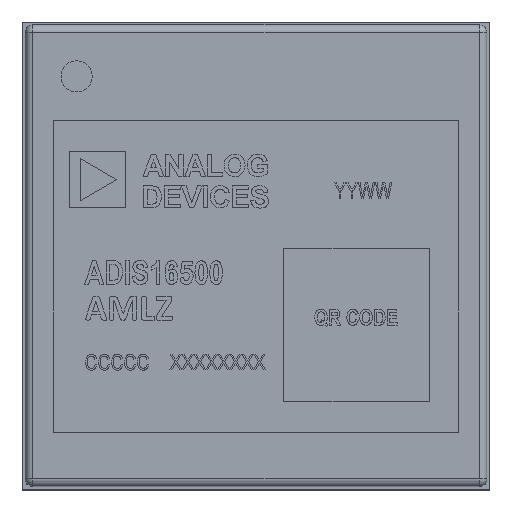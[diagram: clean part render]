
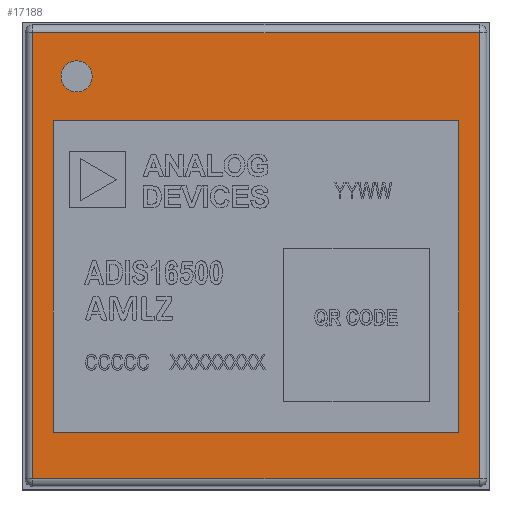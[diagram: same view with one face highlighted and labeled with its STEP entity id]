
A CAD part, top view. The second image highlights one B-rep face of the part: STEP entity #17188.
In plain terms, the highlighted planar face has unit normal (0, 0, 1).
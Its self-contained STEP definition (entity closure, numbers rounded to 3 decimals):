
#1036 = VECTOR ( 'NONE', #28951, 1000. ) ;
#1573 = AXIS2_PLACEMENT_3D ( 'NONE', #33258, #9919, #37222 ) ;
#2166 = DIRECTION ( 'NONE',  ( 0., 0., 1. ) ) ;
#3659 = CARTESIAN_POINT ( 'NONE',  ( -9.238, 0., 35.526 ) ) ;
#3834 = VERTEX_POINT ( 'NONE', #47208 ) ;
#5581 = CARTESIAN_POINT ( 'NONE',  ( 0., -12.652, 35.526 ) ) ;
#7811 = LINE ( 'NONE', #3659, #28560 ) ;
#8319 = LINE ( 'NONE', #16685, #29044 ) ;
#9919 = DIRECTION ( 'NONE',  ( 0., 0., 1. ) ) ;
#10048 = ORIENTED_EDGE ( 'NONE', *, *, #37136, .F. ) ;
#10341 = ORIENTED_EDGE ( 'NONE', *, *, #27175, .T. ) ;
#11752 = CARTESIAN_POINT ( 'NONE',  ( 5.062, -12.652, 35.526 ) ) ;
#12433 = AXIS2_PLACEMENT_3D ( 'NONE', #26126, #37958, #14497 ) ;
#14497 = DIRECTION ( 'NONE',  ( -1., 0., 0. ) ) ;
#16137 = EDGE_CURVE ( 'NONE', #3834, #25210, #23733, .T. ) ;
#16685 = CARTESIAN_POINT ( 'NONE',  ( 0., 1.648, 35.526 ) ) ;
#17115 = ORIENTED_EDGE ( 'NONE', *, *, #18188, .T. ) ;
#17188 = ADVANCED_FACE ( 'NONE', ( #48048, #27195 ), #33983, .F. ) ;
#17339 = ORIENTED_EDGE ( 'NONE', *, *, #16137, .F. ) ;
#18156 = VERTEX_POINT ( 'NONE', #38353 ) ;
#18188 = EDGE_CURVE ( 'NONE', #31260, #18156, #7811, .T. ) ;
#18624 = ORIENTED_EDGE ( 'NONE', *, *, #22085, .T. ) ;
#20377 = CARTESIAN_POINT ( 'NONE',  ( 5.062, 1.648, 35.526 ) ) ;
#21188 = CARTESIAN_POINT ( 'NONE',  ( -7.338, 0.248, 35.526 ) ) ;
#22085 = EDGE_CURVE ( 'NONE', #47301, #38527, #38693, .T. ) ;
#22773 = DIRECTION ( 'NONE',  ( 0., -1., 0. ) ) ;
#23733 = CIRCLE ( 'NONE', #1573, 0.5 ) ;
#25210 = VERTEX_POINT ( 'NONE', #21188 ) ;
#25556 = CARTESIAN_POINT ( 'NONE',  ( -7.838, 0.248, 35.526 ) ) ;
#26126 = CARTESIAN_POINT ( 'NONE',  ( 0., 0., 35.526 ) ) ;
#26453 = CARTESIAN_POINT ( 'NONE',  ( 5.062, 0., 35.526 ) ) ;
#27175 = EDGE_CURVE ( 'NONE', #18156, #47301, #41404, .T. ) ;
#27195 = FACE_OUTER_BOUND ( 'NONE', #48304, .T. ) ;
#27449 = AXIS2_PLACEMENT_3D ( 'NONE', #25556, #2166, #29509 ) ;
#28560 = VECTOR ( 'NONE', #22773, 1000. ) ;
#28808 = EDGE_LOOP ( 'NONE', ( #10048, #17339 ) ) ;
#28951 = DIRECTION ( 'NONE',  ( 1., 0., 0. ) ) ;
#29044 = VECTOR ( 'NONE', #44043, 1000. ) ;
#29509 = DIRECTION ( 'NONE',  ( 1., 0., 0. ) ) ;
#31260 = VERTEX_POINT ( 'NONE', #47021 ) ;
#33258 = CARTESIAN_POINT ( 'NONE',  ( -7.838, 0.248, 35.526 ) ) ;
#33983 = PLANE ( 'NONE',  #12433 ) ;
#34053 = EDGE_CURVE ( 'NONE', #38527, #31260, #8319, .T. ) ;
#37136 = EDGE_CURVE ( 'NONE', #25210, #3834, #49562, .T. ) ;
#37222 = DIRECTION ( 'NONE',  ( 1., 0., 0. ) ) ;
#37931 = DIRECTION ( 'NONE',  ( 0., 1., 0. ) ) ;
#37958 = DIRECTION ( 'NONE',  ( 0., 0., -1. ) ) ;
#38353 = CARTESIAN_POINT ( 'NONE',  ( -9.238, -12.652, 35.526 ) ) ;
#38527 = VERTEX_POINT ( 'NONE', #20377 ) ;
#38693 = LINE ( 'NONE', #26453, #46656 ) ;
#41404 = LINE ( 'NONE', #5581, #1036 ) ;
#44043 = DIRECTION ( 'NONE',  ( -1., 0., 0. ) ) ;
#46656 = VECTOR ( 'NONE', #37931, 1000. ) ;
#47021 = CARTESIAN_POINT ( 'NONE',  ( -9.238, 1.648, 35.526 ) ) ;
#47208 = CARTESIAN_POINT ( 'NONE',  ( -8.338, 0.248, 35.526 ) ) ;
#47301 = VERTEX_POINT ( 'NONE', #11752 ) ;
#47349 = ORIENTED_EDGE ( 'NONE', *, *, #34053, .T. ) ;
#48048 = FACE_BOUND ( 'NONE', #28808, .T. ) ;
#48304 = EDGE_LOOP ( 'NONE', ( #17115, #10341, #18624, #47349 ) ) ;
#49562 = CIRCLE ( 'NONE', #27449, 0.5 ) ;
